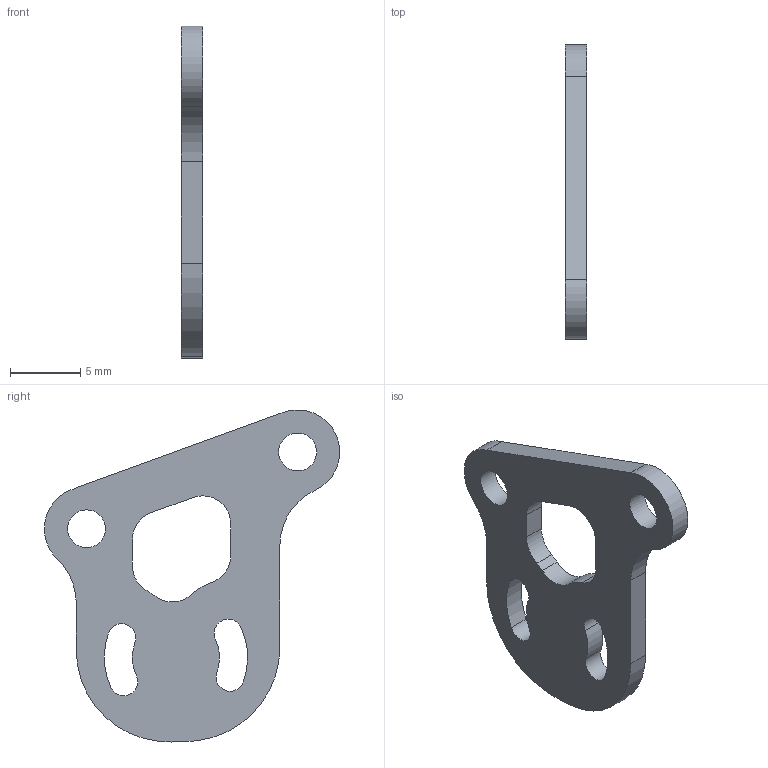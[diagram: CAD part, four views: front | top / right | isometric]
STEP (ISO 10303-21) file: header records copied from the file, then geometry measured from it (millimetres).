
FILE_DESCRIPTION(/* description */ ('','CAx-IF Rec.Pracs.---Representation and Presentation of Product Manufacturing Information (PMI)---4.0---2014-10-13'),/* implementation_level */ '2;1');
FILE_NAME(/* name */ 'O4 Mount.step',/* time_stamp */ '2025-01-08T17:30:01-05:00',/* author */ (''),/* organization */ (''),/* preprocessor_version */ 'ST-DEVELOPER v20',/* originating_system */ 'Autodesk Translation Framework v13.20.0.188',/* authorisation */ '');
FILE_SCHEMA (('AP242_MANAGED_MODEL_BASED_3D_ENGINEERING_MIM_LF { 1 0 10303 442 1 1 4 }'));
Length unit declared in the file: millimetre
Products named in the file (1): O4 Mount
Bounding box: 1.5 x 21.02 x 23.65 mm (x, y, z)
Volume: 365.8 mm3; surface area: 695.2 mm2
Topology: 1 solids, 1 shells, 34 faces, 96 edges, 64 vertices
Faces by surface type: cylinder 26, plane 8
Full cylindrical faces by diameter (mm): 2.7 x2
Entity records: 1194 total; most frequent: DIRECTION 218, CARTESIAN_POINT 195, ORIENTED_EDGE 192, EDGE_CURVE 96, AXIS2_PLACEMENT_3D 87, VERTEX_POINT 64, CIRCLE 52, EDGE_LOOP 44
